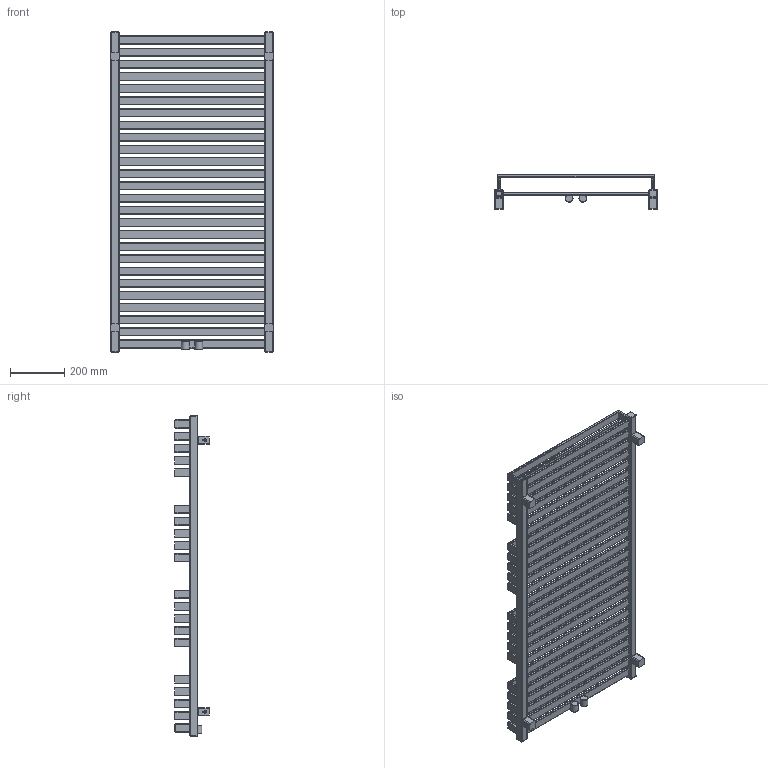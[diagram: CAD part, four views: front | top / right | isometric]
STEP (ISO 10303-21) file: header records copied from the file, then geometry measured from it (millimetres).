
FILE_DESCRIPTION((''),'2;1');
FILE_NAME('Z:\R\G\P\RGP093 - Grzejnik Quadrus Bold 2012\Work\Inventor\Marketing\Modele AutoCAD\QBA-1185-600 Z8.stp','2012-07-02T07:50:13',('KurKa'),(''),'Autodesk Inventor 2012','Autodesk Inventor 2012','');
FILE_SCHEMA(('AUTOMOTIVE_DESIGN { 1 0 10303 214 1 1 1 1 }'));
Length unit declared in the file: millimetre
Products named in the file (3): QBA-1185-600 Z8; MMT42_marketing
Assembly tree (5 placements, depth 2):
  QBA-1185-600 Z8
    QBA-1185-600 Z8
    MMT42_marketing  x4
Bounding box: 606 x 127 x 1185 mm (x, y, z)
Volume: 10453897.7 mm3; surface area: 2409781.7 mm2
Topology: 5 solids, 5 shells, 870 faces, 2276 edges, 1430 vertices
Faces by surface type: cylinder 426, plane 384, cone 30, sphere 16, torus 10, bspline 4
Full cylindrical faces by diameter (mm): 4.509 x4, 12 x4, 18.631 x4, 28 x2
Entity records: 23123 total; most frequent: CARTESIAN_POINT 4307, DIRECTION 4030, ORIENTED_EDGE 3834, EDGE_CURVE 1917, AXIS2_PLACEMENT_3D 1386, VECTOR 1258, LINE 1258, VERTEX_POINT 1211
